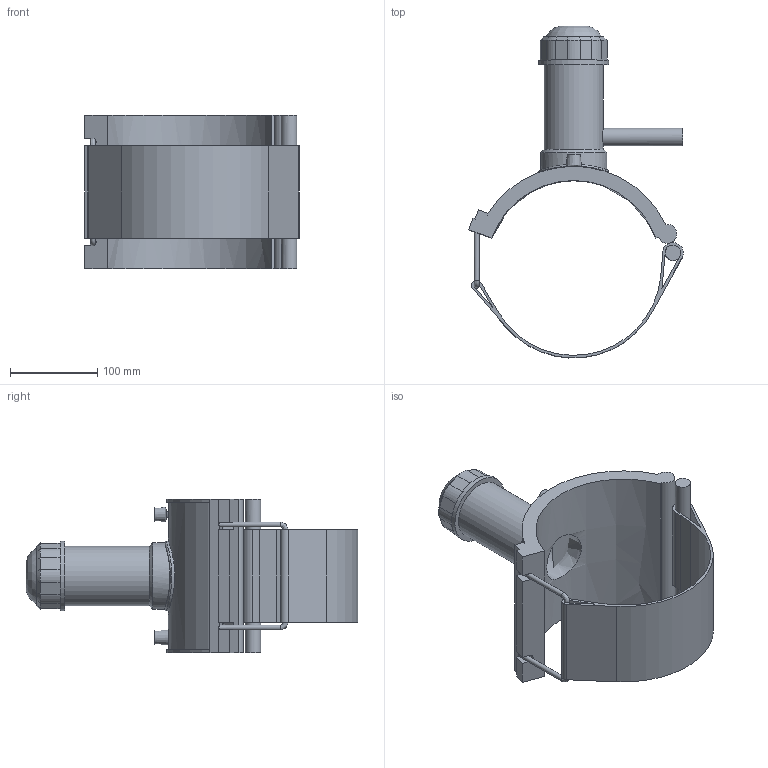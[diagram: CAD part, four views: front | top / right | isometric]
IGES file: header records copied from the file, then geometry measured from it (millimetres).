
Global section: file name: 496304200020.ipt; native system: Autodesk Inventor 2015; preprocessor: unknown; author: KIM; date: 20190124.131132; units: millimetre
Bounding box: 245.66 x 379.84 x 176 mm (x, y, z)
Volume: 1262856.8 mm3; surface area: 299516 mm2
Topology: 2 solids, 2 shells, 121 faces, 301 edges, 191 vertices
Faces by surface type: plane 68, cylinder 29, revolution 12, cone 11, bspline 1
Full cylindrical faces by diameter (mm): 4 x2, 5.6 x2, 17.692 x1, 20 x1, 68 x1, 76 x1, 80 x2
